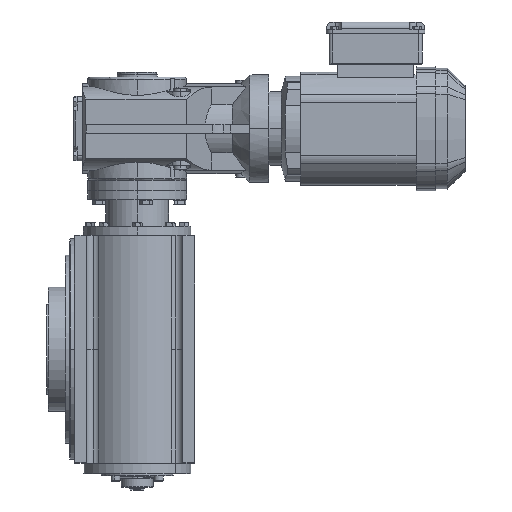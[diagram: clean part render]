
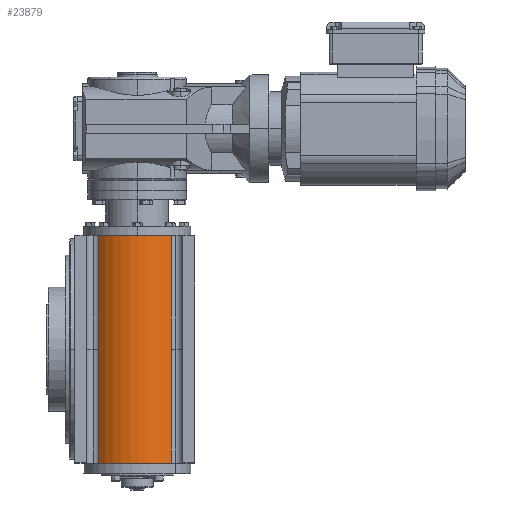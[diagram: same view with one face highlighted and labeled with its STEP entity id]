
A CAD part, left-side view. The second image highlights one B-rep face of the part: STEP entity #23879.
In plain terms, the highlighted cylindrical face has radius 60 mm (diameter 120 mm), a partial arc.
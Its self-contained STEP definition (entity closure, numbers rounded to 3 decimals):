
#3071 = CARTESIAN_POINT ( 'NONE',  ( -131.481, 26.059, 127. ) ) ;
#4242 = ORIENTED_EDGE ( 'NONE', *, *, #72335, .T. ) ;
#4914 = EDGE_CURVE ( 'NONE', #28292, #51480, #54705, .T. ) ;
#9473 = LINE ( 'NONE', #52220, #35952 ) ;
#10628 = CARTESIAN_POINT ( 'NONE',  ( -126.602, 107.235, 127. ) ) ;
#13724 = CARTESIAN_POINT ( 'NONE',  ( -126.602, 107.235, -127. ) ) ;
#14588 = CARTESIAN_POINT ( 'NONE',  ( -131.481, 26.059, -121.981 ) ) ;
#14776 = EDGE_CURVE ( 'NONE', #43023, #55604, #78002, .T. ) ;
#20335 = CARTESIAN_POINT ( 'NONE',  ( -131.481, 26.059, 0. ) ) ;
#22140 = DIRECTION ( 'NONE',  ( 0., 0., -1. ) ) ;
#23879 = ADVANCED_FACE ( 'NONE', ( #27273 ), #71140, .T. ) ;
#26762 = CARTESIAN_POINT ( 'NONE',  ( -126.602, 107.235, -121.981 ) ) ;
#27158 = VECTOR ( 'NONE', #56832, 1000. ) ;
#27273 = FACE_OUTER_BOUND ( 'NONE', #64497, .T. ) ;
#27641 = DIRECTION ( 'NONE',  ( 0., 0., 1. ) ) ;
#27805 = CARTESIAN_POINT ( 'NONE',  ( -85., 64., 127. ) ) ;
#28292 = VERTEX_POINT ( 'NONE', #45593 ) ;
#28484 = CARTESIAN_POINT ( 'NONE',  ( -85., 64., -121.981 ) ) ;
#32465 = EDGE_CURVE ( 'NONE', #51085, #55604, #57540, .T. ) ;
#33173 = ORIENTED_EDGE ( 'NONE', *, *, #32465, .T. ) ;
#33525 = AXIS2_PLACEMENT_3D ( 'NONE', #28484, #53248, #78077 ) ;
#34070 = CARTESIAN_POINT ( 'NONE',  ( -85., 64., -127. ) ) ;
#35222 = VECTOR ( 'NONE', #58742, 1000. ) ;
#35952 = VECTOR ( 'NONE', #22140, 1000. ) ;
#36502 = ORIENTED_EDGE ( 'NONE', *, *, #64619, .T. ) ;
#38581 = LINE ( 'NONE', #26762, #27158 ) ;
#38998 = DIRECTION ( 'NONE',  ( -1., 0., 0. ) ) ;
#43023 = VERTEX_POINT ( 'NONE', #10628 ) ;
#45593 = CARTESIAN_POINT ( 'NONE',  ( -131.481, 26.059, -127. ) ) ;
#46347 = LINE ( 'NONE', #14588, #79131 ) ;
#51085 = VERTEX_POINT ( 'NONE', #20335 ) ;
#51480 = VERTEX_POINT ( 'NONE', #13724 ) ;
#52220 = CARTESIAN_POINT ( 'NONE',  ( -126.602, 107.235, -121.981 ) ) ;
#52589 = DIRECTION ( 'NONE',  ( 1., 0., 0. ) ) ;
#52756 = ORIENTED_EDGE ( 'NONE', *, *, #14776, .F. ) ;
#53248 = DIRECTION ( 'NONE',  ( 0., 0., 1. ) ) ;
#54705 = CIRCLE ( 'NONE', #78116, 60. ) ;
#55604 = VERTEX_POINT ( 'NONE', #3071 ) ;
#56832 = DIRECTION ( 'NONE',  ( 0., 0., -1. ) ) ;
#57540 = LINE ( 'NONE', #64430, #35222 ) ;
#58742 = DIRECTION ( 'NONE',  ( 0., 0., 1. ) ) ;
#59318 = ORIENTED_EDGE ( 'NONE', *, *, #66620, .T. ) ;
#63747 = DIRECTION ( 'NONE',  ( 0., 0., -1. ) ) ;
#64430 = CARTESIAN_POINT ( 'NONE',  ( -131.481, 26.059, -121.981 ) ) ;
#64497 = EDGE_LOOP ( 'NONE', ( #59318, #33173, #52756, #36502, #4242, #79777 ) ) ;
#64619 = EDGE_CURVE ( 'NONE', #43023, #74982, #9473, .T. ) ;
#66620 = EDGE_CURVE ( 'NONE', #28292, #51085, #46347, .T. ) ;
#66880 = CARTESIAN_POINT ( 'NONE',  ( -126.602, 107.235, 0. ) ) ;
#71140 = CYLINDRICAL_SURFACE ( 'NONE', #33525, 60. ) ;
#72335 = EDGE_CURVE ( 'NONE', #74982, #51480, #38581, .T. ) ;
#74125 = AXIS2_PLACEMENT_3D ( 'NONE', #27805, #79044, #52589 ) ;
#74982 = VERTEX_POINT ( 'NONE', #66880 ) ;
#78002 = CIRCLE ( 'NONE', #74125, 60. ) ;
#78077 = DIRECTION ( 'NONE',  ( 1., 0., 0. ) ) ;
#78116 = AXIS2_PLACEMENT_3D ( 'NONE', #34070, #63747, #38998 ) ;
#79044 = DIRECTION ( 'NONE',  ( 0., 0., 1. ) ) ;
#79131 = VECTOR ( 'NONE', #27641, 1000. ) ;
#79777 = ORIENTED_EDGE ( 'NONE', *, *, #4914, .F. ) ;
